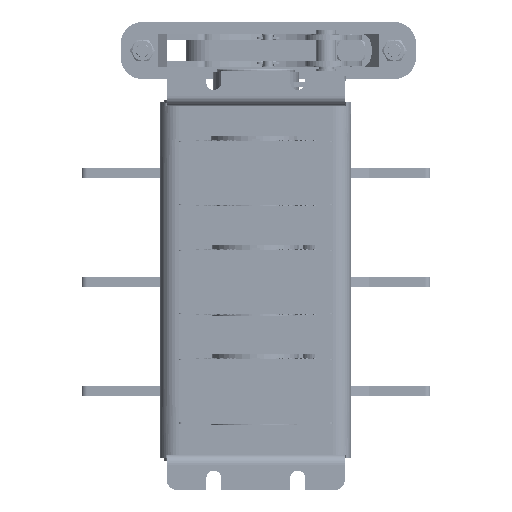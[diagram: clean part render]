
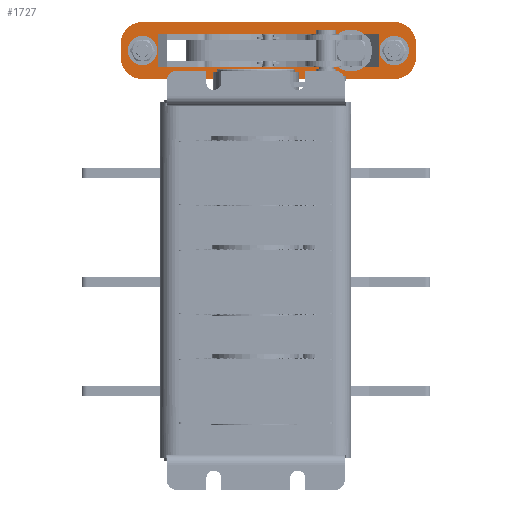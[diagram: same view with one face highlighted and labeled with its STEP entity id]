
A CAD part, left-side view. The second image highlights one B-rep face of the part: STEP entity #1727.
In plain terms, the highlighted planar face has unit normal (-1, 0, 0) as drawn and (0, -1, 0) by its records, which use the part's own axes.
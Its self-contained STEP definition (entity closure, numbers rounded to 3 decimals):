
#358 = CARTESIAN_POINT ( 'NONE',  ( -88., -33.5, 17. ) ) ;
#1283 = PLANE ( 'NONE',  #65687 ) ;
#1295 = LINE ( 'NONE', #73768, #10882 ) ;
#1727 = ADVANCED_FACE ( 'NONE', ( #10573, #59973, #65653, #43805 ), #1283, .F. ) ;
#3339 = CARTESIAN_POINT ( 'NONE',  ( 75., -33.5, 0. ) ) ;
#3532 = DIRECTION ( 'NONE',  ( 0., 0., 1. ) ) ;
#3568 = EDGE_CURVE ( 'NONE', #24365, #30003, #29682, .T. ) ;
#4042 = CARTESIAN_POINT ( 'NONE',  ( 75., -33.5, 0. ) ) ;
#4163 = EDGE_CURVE ( 'NONE', #9021, #22912, #14387, .T. ) ;
#4339 = CARTESIAN_POINT ( 'NONE',  ( 88., -33.5, 4. ) ) ;
#4800 = DIRECTION ( 'NONE',  ( 1., 0., 0. ) ) ;
#4836 = DIRECTION ( 'NONE',  ( 0., 1., 0. ) ) ;
#6389 = ORIENTED_EDGE ( 'NONE', *, *, #51123, .T. ) ;
#6893 = VERTEX_POINT ( 'NONE', #75489 ) ;
#7317 = AXIS2_PLACEMENT_3D ( 'NONE', #48884, #24750, #66400 ) ;
#7536 = CIRCLE ( 'NONE', #7317, 13. ) ;
#7873 = DIRECTION ( 'NONE',  ( 1., 0., 0. ) ) ;
#8097 = AXIS2_PLACEMENT_3D ( 'NONE', #3339, #9200, #21164 ) ;
#8668 = CARTESIAN_POINT ( 'NONE',  ( 88., -33.5, -4. ) ) ;
#9021 = VERTEX_POINT ( 'NONE', #59807 ) ;
#9200 = DIRECTION ( 'NONE',  ( 0., 1., 0. ) ) ;
#10524 = DIRECTION ( 'NONE',  ( 0., -1., 0. ) ) ;
#10573 = FACE_BOUND ( 'NONE', #44991, .T. ) ;
#10882 = VECTOR ( 'NONE', #53621, 1000. ) ;
#11029 = VERTEX_POINT ( 'NONE', #61060 ) ;
#12201 = ORIENTED_EDGE ( 'NONE', *, *, #54568, .T. ) ;
#13036 = VERTEX_POINT ( 'NONE', #62245 ) ;
#14029 = VERTEX_POINT ( 'NONE', #22015 ) ;
#14387 = LINE ( 'NONE', #64295, #18181 ) ;
#14533 = CARTESIAN_POINT ( 'NONE',  ( 66., -33.5, 10. ) ) ;
#15399 = CIRCLE ( 'NONE', #28031, 13. ) ;
#16340 = DIRECTION ( 'NONE',  ( 0., 0., 1. ) ) ;
#16494 = EDGE_LOOP ( 'NONE', ( #54766, #26352, #33493, #67975 ) ) ;
#16854 = CARTESIAN_POINT ( 'NONE',  ( 75., -33.5, 4. ) ) ;
#18181 = VECTOR ( 'NONE', #27957, 1000. ) ;
#20322 = EDGE_CURVE ( 'NONE', #57834, #14029, #43770, .T. ) ;
#21164 = DIRECTION ( 'NONE',  ( 1., 0., 0. ) ) ;
#22015 = CARTESIAN_POINT ( 'NONE',  ( 75., -33.5, 17. ) ) ;
#22645 = AXIS2_PLACEMENT_3D ( 'NONE', #57661, #64037, #70134 ) ;
#22912 = VERTEX_POINT ( 'NONE', #14533 ) ;
#23925 = EDGE_CURVE ( 'NONE', #29327, #73582, #1295, .T. ) ;
#24365 = VERTEX_POINT ( 'NONE', #70818 ) ;
#24750 = DIRECTION ( 'NONE',  ( 0., -1., 0. ) ) ;
#26352 = ORIENTED_EDGE ( 'NONE', *, *, #66331, .F. ) ;
#26402 = EDGE_CURVE ( 'NONE', #57834, #24365, #15399, .T. ) ;
#27957 = DIRECTION ( 'NONE',  ( 0., 0., 1. ) ) ;
#28031 = AXIS2_PLACEMENT_3D ( 'NONE', #75403, #39103, #3532 ) ;
#28875 = CARTESIAN_POINT ( 'NONE',  ( 79.5, -33.5, 0. ) ) ;
#29327 = VERTEX_POINT ( 'NONE', #4339 ) ;
#29393 = AXIS2_PLACEMENT_3D ( 'NONE', #16854, #10524, #16340 ) ;
#29645 = VERTEX_POINT ( 'NONE', #56035 ) ;
#29682 = LINE ( 'NONE', #47645, #70456 ) ;
#29951 = CIRCLE ( 'NONE', #29393, 13. ) ;
#30003 = VERTEX_POINT ( 'NONE', #40083 ) ;
#30840 = EDGE_CURVE ( 'NONE', #58506, #13036, #35630, .T. ) ;
#33493 = ORIENTED_EDGE ( 'NONE', *, *, #56558, .T. ) ;
#34319 = AXIS2_PLACEMENT_3D ( 'NONE', #42341, #55049, #66509 ) ;
#34807 = LINE ( 'NONE', #55050, #70875 ) ;
#34848 = DIRECTION ( 'NONE',  ( 1., 0., 0. ) ) ;
#34853 = DIRECTION ( 'NONE',  ( 0., 1., 0. ) ) ;
#35321 = CARTESIAN_POINT ( 'NONE',  ( -66., -33.5, -10. ) ) ;
#35630 = CIRCLE ( 'NONE', #52166, 4.5 ) ;
#36191 = AXIS2_PLACEMENT_3D ( 'NONE', #59797, #34853, #48103 ) ;
#37670 = CARTESIAN_POINT ( 'NONE',  ( -88., -33.5, 17. ) ) ;
#37927 = DIRECTION ( 'NONE',  ( 0., 0., 1. ) ) ;
#38621 = ORIENTED_EDGE ( 'NONE', *, *, #72264, .T. ) ;
#39103 = DIRECTION ( 'NONE',  ( 0., -1., 0. ) ) ;
#40083 = CARTESIAN_POINT ( 'NONE',  ( -88., -33.5, -4. ) ) ;
#40956 = VECTOR ( 'NONE', #43101, 1000. ) ;
#40976 = EDGE_CURVE ( 'NONE', #77302, #22912, #34807, .T. ) ;
#42341 = CARTESIAN_POINT ( 'NONE',  ( 75., -33.5, -4. ) ) ;
#43101 = DIRECTION ( 'NONE',  ( 1., 0., 0. ) ) ;
#43770 = LINE ( 'NONE', #358, #40956 ) ;
#43805 = FACE_OUTER_BOUND ( 'NONE', #64170, .T. ) ;
#44596 = CIRCLE ( 'NONE', #22645, 4.5 ) ;
#44991 = EDGE_LOOP ( 'NONE', ( #51727, #71118 ) ) ;
#47645 = CARTESIAN_POINT ( 'NONE',  ( -88., -33.5, 17. ) ) ;
#48016 = LINE ( 'NONE', #56222, #58435 ) ;
#48103 = DIRECTION ( 'NONE',  ( -1., 0., 0. ) ) ;
#48332 = VERTEX_POINT ( 'NONE', #73173 ) ;
#48884 = CARTESIAN_POINT ( 'NONE',  ( -75., -33.5, -4. ) ) ;
#49223 = CIRCLE ( 'NONE', #34319, 13. ) ;
#49349 = EDGE_CURVE ( 'NONE', #78212, #48332, #44596, .T. ) ;
#49717 = ORIENTED_EDGE ( 'NONE', *, *, #76585, .T. ) ;
#50894 = EDGE_CURVE ( 'NONE', #6893, #29645, #68967, .T. ) ;
#51123 = EDGE_CURVE ( 'NONE', #29327, #14029, #29951, .T. ) ;
#51529 = CARTESIAN_POINT ( 'NONE',  ( -75., -33.5, 17. ) ) ;
#51727 = ORIENTED_EDGE ( 'NONE', *, *, #52168, .T. ) ;
#52166 = AXIS2_PLACEMENT_3D ( 'NONE', #4042, #4836, #34848 ) ;
#52168 = EDGE_CURVE ( 'NONE', #13036, #58506, #63066, .T. ) ;
#53621 = DIRECTION ( 'NONE',  ( 0., 0., -1. ) ) ;
#54118 = ORIENTED_EDGE ( 'NONE', *, *, #49349, .T. ) ;
#54568 = EDGE_CURVE ( 'NONE', #30003, #6893, #7536, .T. ) ;
#54766 = ORIENTED_EDGE ( 'NONE', *, *, #4163, .F. ) ;
#54932 = ORIENTED_EDGE ( 'NONE', *, *, #26402, .T. ) ;
#55049 = DIRECTION ( 'NONE',  ( 0., -1., 0. ) ) ;
#55050 = CARTESIAN_POINT ( 'NONE',  ( -66., -33.5, 10. ) ) ;
#56035 = CARTESIAN_POINT ( 'NONE',  ( 75., -33.5, -17. ) ) ;
#56222 = CARTESIAN_POINT ( 'NONE',  ( -66., -33.5, -10. ) ) ;
#56558 = EDGE_CURVE ( 'NONE', #11029, #77302, #48016, .T. ) ;
#57661 = CARTESIAN_POINT ( 'NONE',  ( -75., -33.5, 0. ) ) ;
#57834 = VERTEX_POINT ( 'NONE', #51529 ) ;
#58435 = VECTOR ( 'NONE', #74495, 1000. ) ;
#58506 = VERTEX_POINT ( 'NONE', #28875 ) ;
#59797 = CARTESIAN_POINT ( 'NONE',  ( -75., -33.5, 0. ) ) ;
#59807 = CARTESIAN_POINT ( 'NONE',  ( 66., -33.5, -10. ) ) ;
#59973 = FACE_BOUND ( 'NONE', #68612, .T. ) ;
#60185 = ORIENTED_EDGE ( 'NONE', *, *, #23925, .F. ) ;
#61060 = CARTESIAN_POINT ( 'NONE',  ( -66., -33.5, -10. ) ) ;
#61561 = DIRECTION ( 'NONE',  ( 0., 1., 0. ) ) ;
#62245 = CARTESIAN_POINT ( 'NONE',  ( 70.5, -33.5, 0. ) ) ;
#62355 = ORIENTED_EDGE ( 'NONE', *, *, #50894, .T. ) ;
#62385 = CIRCLE ( 'NONE', #36191, 4.5 ) ;
#63066 = CIRCLE ( 'NONE', #8097, 4.5 ) ;
#63089 = VECTOR ( 'NONE', #4800, 1000. ) ;
#64037 = DIRECTION ( 'NONE',  ( 0., 1., 0. ) ) ;
#64170 = EDGE_LOOP ( 'NONE', ( #60185, #6389, #66969, #54932, #65088, #12201, #62355, #38621 ) ) ;
#64295 = CARTESIAN_POINT ( 'NONE',  ( 66., -33.5, -10. ) ) ;
#65088 = ORIENTED_EDGE ( 'NONE', *, *, #3568, .T. ) ;
#65653 = FACE_BOUND ( 'NONE', #16494, .T. ) ;
#65687 = AXIS2_PLACEMENT_3D ( 'NONE', #37670, #61561, #37927 ) ;
#66331 = EDGE_CURVE ( 'NONE', #11029, #9021, #71611, .T. ) ;
#66400 = DIRECTION ( 'NONE',  ( 0., 0., 1. ) ) ;
#66509 = DIRECTION ( 'NONE',  ( 0., 0., 1. ) ) ;
#66969 = ORIENTED_EDGE ( 'NONE', *, *, #20322, .F. ) ;
#67975 = ORIENTED_EDGE ( 'NONE', *, *, #40976, .T. ) ;
#68612 = EDGE_LOOP ( 'NONE', ( #49717, #54118 ) ) ;
#68967 = LINE ( 'NONE', #69133, #77439 ) ;
#69133 = CARTESIAN_POINT ( 'NONE',  ( -88., -33.5, -17. ) ) ;
#70134 = DIRECTION ( 'NONE',  ( -1., 0., 0. ) ) ;
#70456 = VECTOR ( 'NONE', #71240, 1000. ) ;
#70818 = CARTESIAN_POINT ( 'NONE',  ( -88., -33.5, 4. ) ) ;
#70875 = VECTOR ( 'NONE', #72568, 1000. ) ;
#71118 = ORIENTED_EDGE ( 'NONE', *, *, #30840, .T. ) ;
#71240 = DIRECTION ( 'NONE',  ( 0., 0., -1. ) ) ;
#71611 = LINE ( 'NONE', #35321, #63089 ) ;
#72264 = EDGE_CURVE ( 'NONE', #29645, #73582, #49223, .T. ) ;
#72379 = CARTESIAN_POINT ( 'NONE',  ( -66., -33.5, 10. ) ) ;
#72568 = DIRECTION ( 'NONE',  ( 1., 0., 0. ) ) ;
#73070 = CARTESIAN_POINT ( 'NONE',  ( -70.5, -33.5, 0. ) ) ;
#73173 = CARTESIAN_POINT ( 'NONE',  ( -79.5, -33.5, 0. ) ) ;
#73582 = VERTEX_POINT ( 'NONE', #8668 ) ;
#73768 = CARTESIAN_POINT ( 'NONE',  ( 88., -33.5, 17. ) ) ;
#74495 = DIRECTION ( 'NONE',  ( 0., 0., 1. ) ) ;
#75403 = CARTESIAN_POINT ( 'NONE',  ( -75., -33.5, 4. ) ) ;
#75489 = CARTESIAN_POINT ( 'NONE',  ( -75., -33.5, -17. ) ) ;
#76585 = EDGE_CURVE ( 'NONE', #48332, #78212, #62385, .T. ) ;
#77302 = VERTEX_POINT ( 'NONE', #72379 ) ;
#77439 = VECTOR ( 'NONE', #7873, 1000. ) ;
#78212 = VERTEX_POINT ( 'NONE', #73070 ) ;
